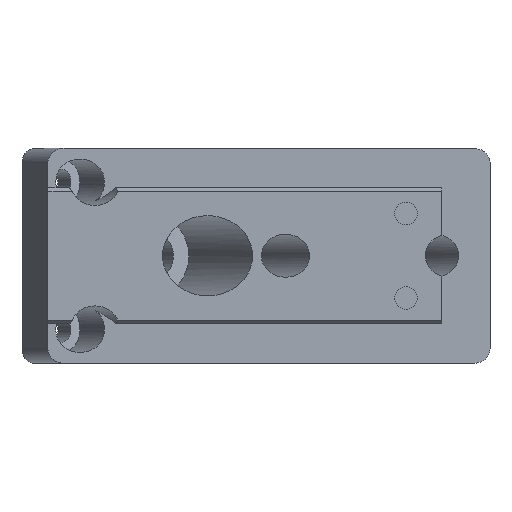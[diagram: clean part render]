
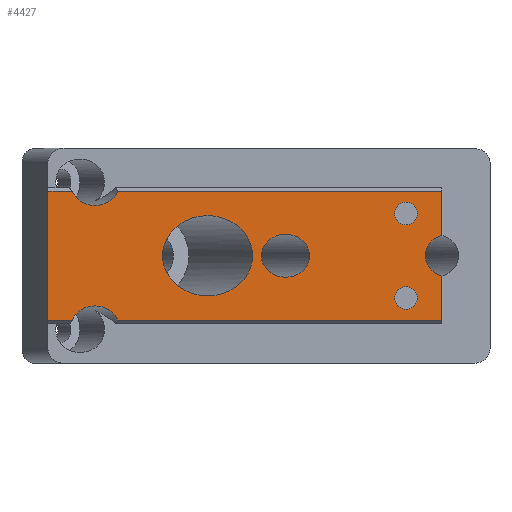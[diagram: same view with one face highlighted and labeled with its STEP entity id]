
A CAD part, top view. The second image highlights one B-rep face of the part: STEP entity #4427.
In plain terms, the highlighted planar face has unit normal (0, 0, 1).
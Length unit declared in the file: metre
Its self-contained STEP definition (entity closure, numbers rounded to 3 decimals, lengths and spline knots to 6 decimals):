
#144=ELLIPSE('',#4708,0.006285,0.0056);
#145=ELLIPSE('',#4709,0.003367,0.003);
#146=ELLIPSE('',#4712,0.003367,0.003);
#147=ELLIPSE('',#4713,0.003367,0.003);
#148=ELLIPSE('',#4714,0.003367,0.003);
#241=CIRCLE('',#4710,0.0016);
#242=CIRCLE('',#4711,0.0016);
#356=ORIENTED_EDGE('',*,*,#1696,.T.);
#357=ORIENTED_EDGE('',*,*,#1697,.T.);
#358=ORIENTED_EDGE('',*,*,#1698,.T.);
#359=ORIENTED_EDGE('',*,*,#1699,.T.);
#360=ORIENTED_EDGE('',*,*,#1700,.F.);
#361=ORIENTED_EDGE('',*,*,#1701,.T.);
#362=ORIENTED_EDGE('',*,*,#1702,.T.);
#363=ORIENTED_EDGE('',*,*,#1703,.T.);
#364=ORIENTED_EDGE('',*,*,#1704,.F.);
#365=ORIENTED_EDGE('',*,*,#1705,.T.);
#366=ORIENTED_EDGE('',*,*,#1706,.F.);
#367=ORIENTED_EDGE('',*,*,#1707,.T.);
#368=ORIENTED_EDGE('',*,*,#1708,.F.);
#369=ORIENTED_EDGE('',*,*,#1709,.T.);
#1696=EDGE_CURVE('',#2366,#2366,#144,.T.);
#1697=EDGE_CURVE('',#2367,#2367,#145,.T.);
#1698=EDGE_CURVE('',#2368,#2368,#241,.T.);
#1699=EDGE_CURVE('',#2369,#2369,#242,.T.);
#1700=EDGE_CURVE('',#2370,#2371,#146,.F.);
#1701=EDGE_CURVE('',#2370,#2372,#2798,.T.);
#1702=EDGE_CURVE('',#2372,#2373,#2799,.T.);
#1703=EDGE_CURVE('',#2373,#2374,#2800,.T.);
#1704=EDGE_CURVE('',#2375,#2374,#147,.F.);
#1705=EDGE_CURVE('',#2375,#2376,#2801,.T.);
#1706=EDGE_CURVE('',#2377,#2376,#2802,.T.);
#1707=EDGE_CURVE('',#2377,#2378,#148,.T.);
#1708=EDGE_CURVE('',#2379,#2378,#2803,.T.);
#1709=EDGE_CURVE('',#2379,#2371,#2804,.T.);
#2366=VERTEX_POINT('',#6207);
#2367=VERTEX_POINT('',#6209);
#2368=VERTEX_POINT('',#6211);
#2369=VERTEX_POINT('',#6213);
#2370=VERTEX_POINT('',#6215);
#2371=VERTEX_POINT('',#6216);
#2372=VERTEX_POINT('',#6218);
#2373=VERTEX_POINT('',#6220);
#2374=VERTEX_POINT('',#6222);
#2375=VERTEX_POINT('',#6224);
#2376=VERTEX_POINT('',#6226);
#2377=VERTEX_POINT('',#6228);
#2378=VERTEX_POINT('',#6230);
#2379=VERTEX_POINT('',#6232);
#2798=LINE('',#6217,#3261);
#2799=LINE('',#6219,#3262);
#2800=LINE('',#6221,#3263);
#2801=LINE('',#6225,#3264);
#2802=LINE('',#6227,#3265);
#2803=LINE('',#6231,#3266);
#2804=LINE('',#6233,#3267);
#3261=VECTOR('',#5088,1.);
#3262=VECTOR('',#5089,1.);
#3263=VECTOR('',#5090,1.);
#3264=VECTOR('',#5093,1.);
#3265=VECTOR('',#5094,1.);
#3266=VECTOR('',#5097,1.);
#3267=VECTOR('',#5098,1.);
#3711=EDGE_LOOP('',(#356));
#3712=EDGE_LOOP('',(#357));
#3713=EDGE_LOOP('',(#358));
#3714=EDGE_LOOP('',(#359));
#3715=EDGE_LOOP('',(#360,#361,#362,#363,#364,#365,#366,#367,#368,#369));
#3996=FACE_BOUND('',#3711,.T.);
#3997=FACE_BOUND('',#3712,.T.);
#3998=FACE_BOUND('',#3713,.T.);
#3999=FACE_BOUND('',#3714,.T.);
#4000=FACE_BOUND('',#3715,.T.);
#4273=PLANE('',#4707);
#4427=ADVANCED_FACE('',(#3996,#3997,#3998,#3999,#4000),#4273,.F.);
#4707=AXIS2_PLACEMENT_3D('',#6205,#5076,#5077);
#4708=AXIS2_PLACEMENT_3D('',#6206,#5078,#5079);
#4709=AXIS2_PLACEMENT_3D('',#6208,#5080,#5081);
#4710=AXIS2_PLACEMENT_3D('',#6210,#5082,#5083);
#4711=AXIS2_PLACEMENT_3D('',#6212,#5084,#5085);
#4712=AXIS2_PLACEMENT_3D('',#6214,#5086,#5087);
#4713=AXIS2_PLACEMENT_3D('',#6223,#5091,#5092);
#4714=AXIS2_PLACEMENT_3D('',#6229,#5095,#5096);
#5076=DIRECTION('',(0.,0.,-1.));
#5077=DIRECTION('',(-1.,0.,0.));
#5078=DIRECTION('',(0.,0.,-1.));
#5079=DIRECTION('',(-1.,0.,0.));
#5080=DIRECTION('',(0.,0.,-1.));
#5081=DIRECTION('',(-1.,0.,0.));
#5082=DIRECTION('',(0.,0.,-1.));
#5083=DIRECTION('',(-1.,0.,0.));
#5084=DIRECTION('',(0.,0.,-1.));
#5085=DIRECTION('',(-1.,0.,0.));
#5086=DIRECTION('',(0.,0.,-1.));
#5087=DIRECTION('',(-1.,0.,0.));
#5088=DIRECTION('',(-1.,0.,0.));
#5089=DIRECTION('',(0.,-1.,0.));
#5090=DIRECTION('',(1.,0.,0.));
#5091=DIRECTION('',(0.,0.,-1.));
#5092=DIRECTION('',(-1.,0.,0.));
#5093=DIRECTION('',(1.,0.,0.));
#5094=DIRECTION('',(0.,-1.,0.));
#5095=DIRECTION('',(0.,0.,-1.));
#5096=DIRECTION('',(-1.,0.,0.));
#5097=DIRECTION('',(0.,-1.,0.));
#5098=DIRECTION('',(-1.,0.,0.));
#6205=CARTESIAN_POINT('',(0.055,0.,0.0041));
#6206=CARTESIAN_POINT('',(0.022291,0.,0.0041));
#6207=CARTESIAN_POINT('',(0.016006,0.,0.0041));
#6208=CARTESIAN_POINT('',(0.033177,0.,0.0041));
#6209=CARTESIAN_POINT('',(0.029811,0.,0.0041));
#6210=CARTESIAN_POINT('',(0.05,0.0059,0.0041));
#6211=CARTESIAN_POINT('',(0.0484,0.0059,0.0041));
#6212=CARTESIAN_POINT('',(0.05,-0.0059,0.0041));
#6213=CARTESIAN_POINT('',(0.0484,-0.0059,0.0041));
#6214=CARTESIAN_POINT('',(0.006578,0.01,0.0041));
#6215=CARTESIAN_POINT('',(0.003402,0.009004,0.0041));
#6216=CARTESIAN_POINT('',(0.009755,0.009004,0.0041));
#6217=CARTESIAN_POINT('',(0.,0.009004,0.0041));
#6218=CARTESIAN_POINT('',(0.,0.009004,0.0041));
#6219=CARTESIAN_POINT('',(0.,0.,0.0041));
#6220=CARTESIAN_POINT('',(0.,-0.009004,0.0041));
#6221=CARTESIAN_POINT('',(0.055,-0.009004,0.0041));
#6222=CARTESIAN_POINT('',(0.003402,-0.009004,0.0041));
#6223=CARTESIAN_POINT('',(0.006578,-0.01,0.0041));
#6224=CARTESIAN_POINT('',(0.009755,-0.009004,0.0041));
#6225=CARTESIAN_POINT('',(0.055,-0.009004,0.0041));
#6226=CARTESIAN_POINT('',(0.055,-0.009004,0.0041));
#6227=CARTESIAN_POINT('',(0.055,0.,0.0041));
#6228=CARTESIAN_POINT('',(0.055,-0.002844,0.0041));
#6229=CARTESIAN_POINT('',(0.056073,0.,0.0041));
#6230=CARTESIAN_POINT('',(0.055,0.002844,0.0041));
#6231=CARTESIAN_POINT('',(0.055,0.,0.0041));
#6232=CARTESIAN_POINT('',(0.055,0.009004,0.0041));
#6233=CARTESIAN_POINT('',(0.,0.009004,0.0041));
